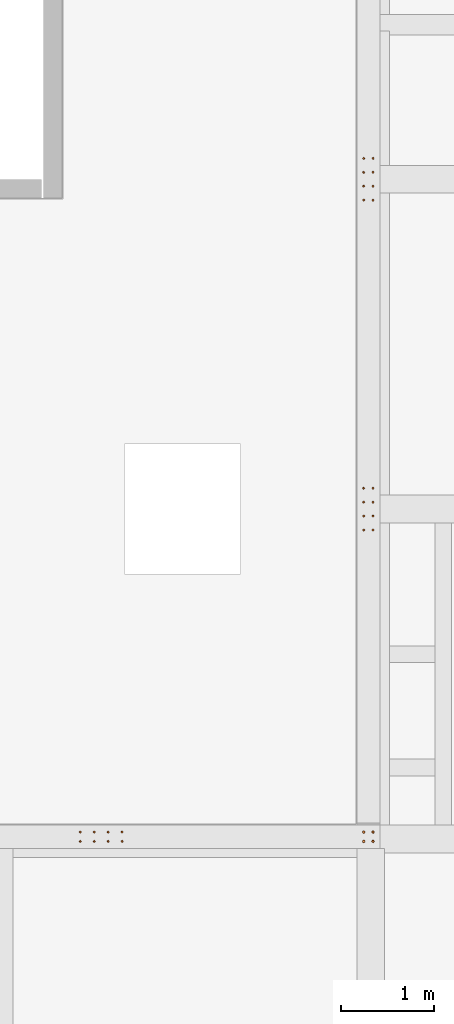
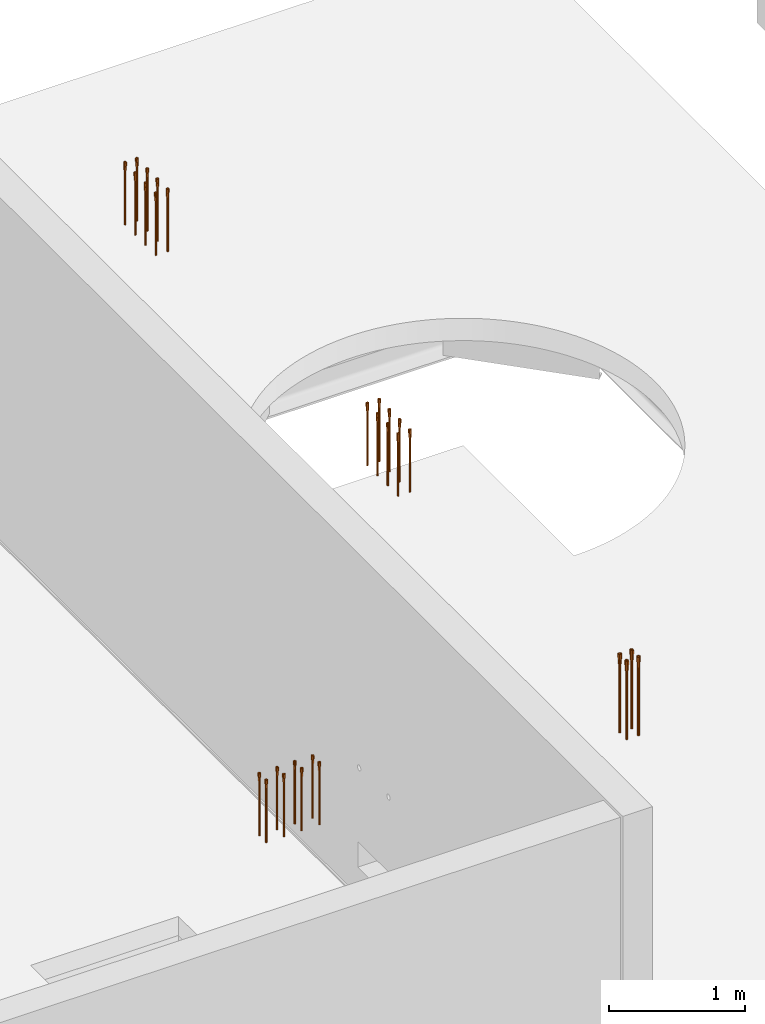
# One storey, part 14 of 16: 28 proxies.
"""IFC2X3 building model written with IfcOpenShell, lengths in millimetres."""

import ifcopenshell
import ifcopenshell.guid

model = None  # the IFC model being written
_history = None  # IfcOwnerHistory: only IFC2X3 demands one
_inside = {}  # id of a spatial element -> (the spatial element, [elements in it])
_under = {}  # id of a project, library or spatial element -> (it, [spatial elements below it])
_declared = {}  # id of a project -> (the project, [libraries it declares])
_typed = {}  # id of a type object -> (the type object, [elements of that type])
_made_of = {}  # id of a material, layer set ... -> (it, [elements and type objects made of it])


def new_model(schema):
    """Start an empty IFC model of exactly this schema.

    Asked for "IFC4X3", IfcOpenShell would pick the latest addendum, in which some entities
    have other attributes; the version numbers below select the first issue.
    IFC2X3 requires an IfcOwnerHistory on every rooted entity: one is made here for all.
    """
    global model, _history
    if schema == "IFC4X3":
        model = ifcopenshell.file(schema_version=(4, 3, 0, 0))
    else:
        model = ifcopenshell.file(schema=schema)
    _inside.clear()
    _under.clear()
    _declared.clear()
    _typed.clear()
    _made_of.clear()
    _history = None
    if model.schema == "IFC2X3":
        org = make("IfcOrganization", Name="unknown")
        user = make(
            "IfcPersonAndOrganization",
            ThePerson=make("IfcPerson", FamilyName="unknown"),
            TheOrganization=org,
        )
        app = make(
            "IfcApplication",
            ApplicationDeveloper=org,
            Version="unknown",
            ApplicationFullName="unknown",
            ApplicationIdentifier="unknown",
        )
        _history = make(
            "IfcOwnerHistory",
            OwningUser=user,
            OwningApplication=app,
            ChangeAction="ADDED",
            CreationDate=0,
        )
    return model


def make(cls, **values):
    """One entity of the class cls with the attributes given. An attribute that is None is left unset."""
    return model.create_entity(
        cls, **{name: value for name, value in values.items() if value is not None}
    )


def entity(cls, *values):
    """Any entity or typed value of the class cls, its attributes in the order of the schema. None: left unset."""
    e = model.create_entity(cls)
    for i, value in enumerate(values):
        if value is not None:
            e[i] = value
    return e


def rooted(cls, **values):
    """An entity with a GlobalId (a new one), such as an element, a storey or a relation."""
    return make(cls, GlobalId=ifcopenshell.guid.new(), OwnerHistory=_history, **values)


def si_unit(unit_type, name, prefix=None):
    """IfcSIUnit, for example si_unit("LENGTHUNIT", "METRE", prefix="MILLI")."""
    return make("IfcSIUnit", UnitType=unit_type, Prefix=prefix, Name=name)


def converted_unit(unit_type, name, factor, base, dimensions=None, offset=None):
    """IfcConversionBasedUnit, such as the inch: factor (a typed value) times the base unit."""
    return make(
        "IfcConversionBasedUnit"
        if offset is None
        else "IfcConversionBasedUnitWithOffset",
        ConversionOffset=offset,
        Dimensions=None
        if dimensions is None
        else entity("IfcDimensionalExponents", *dimensions),
        UnitType=unit_type,
        Name=name,
        ConversionFactor=make(
            "IfcMeasureWithUnit", ValueComponent=factor, UnitComponent=base
        ),
    )


def derived_unit(unit_type, elements):
    """IfcDerivedUnit: a product of units, each with its exponent."""
    return make(
        "IfcDerivedUnit",
        Elements=[
            make("IfcDerivedUnitElement", Unit=unit, Exponent=power)
            for unit, power in elements
        ],
        UnitType=unit_type,
    )


def assignment(units):
    """IfcUnitAssignment: the units of a project."""
    return None if units is None else make("IfcUnitAssignment", Units=units)


def point(xyz):
    """IfcCartesianPoint."""
    return None if xyz is None else make("IfcCartesianPoint", Coordinates=xyz)


def direction(xyz):
    """IfcDirection."""
    return None if xyz is None else make("IfcDirection", DirectionRatios=xyz)


def frame(location, z_axis=None, x_axis=None):
    """IfcAxis2Placement3D, a coordinate frame: its origin and axes. An axis left out is left unset."""
    return make(
        "IfcAxis2Placement3D",
        Location=point(location),
        Axis=direction(z_axis),
        RefDirection=direction(x_axis),
    )


def frame_2d(location, x_axis=None):
    """IfcAxis2Placement2D, a coordinate frame in the plane: its origin and x axis."""
    return make(
        "IfcAxis2Placement2D", Location=point(location), RefDirection=direction(x_axis)
    )


def origin():
    """The frame at (0, 0, 0) with its axes left unset."""
    return frame((0.0, 0.0, 0.0))


def place(relative_to, where):
    """IfcLocalPlacement: puts the frame where relative to a parent placement (None: the world)."""
    return make(
        "IfcLocalPlacement", PlacementRelTo=relative_to, RelativePlacement=where
    )


def context(
    kind, dimensions, precision=None, world=None, true_north=None, identifier=None
):
    """IfcGeometricRepresentationContext, for example the 3D "Model" context."""
    return make(
        "IfcGeometricRepresentationContext",
        ContextIdentifier=identifier,
        ContextType=kind,
        CoordinateSpaceDimension=dimensions,
        Precision=precision,
        WorldCoordinateSystem=world,
        TrueNorth=true_north,
    )


def subcontext(parent, identifier, kind, view, scale=None):
    """IfcGeometricRepresentationSubContext, for example "Body" below "Model"."""
    return make(
        "IfcGeometricRepresentationSubContext",
        ContextIdentifier=identifier,
        ContextType=kind,
        ParentContext=parent,
        TargetScale=scale,
        TargetView=view,
    )


def project(units=None, contexts=None):
    """IfcProject with its units and contexts."""
    return rooted(
        "IfcProject",
        Name="project",
        RepresentationContexts=contexts,
        UnitsInContext=assignment(units),
    )


def spatial(cls, under=None, at=None, **own):
    """A site, building, storey or space (cls), placed at a placement, below another one or the project."""
    s = rooted(cls, ObjectPlacement=at, **own)
    if under is not None:
        _under.setdefault(under.id(), (under, []))[1].append(s)
    return s


def profile(cls, at=None, kind="AREA", **sizes):
    """A parametric profile (cls). Its sizes go by their IFC names, for example OverallWidth=200.0."""
    return make(cls, ProfileType=kind, Position=at, **sizes)


def circle(**sizes):
    """IfcCircleProfileDef."""
    return profile("IfcCircleProfileDef", **sizes)


def extrude(swept, where, along, depth):
    """IfcExtrudedAreaSolid: the profile swept, set in the frame where, extruded along a direction by depth."""
    return make(
        "IfcExtrudedAreaSolid",
        SweptArea=swept,
        Position=where,
        ExtrudedDirection=direction(along),
        Depth=depth,
    )


def faces_of(points, faces, orient=None, outer=None):
    """IfcFace entities. A face is a list of loops; a loop is a list of indices into points, from 0.

    orient and outer hold one flag for each loop. By default every Orientation is true, the
    first loop of a face is its IfcFaceOuterBound and the others are IfcFaceBound.
    """
    made = []
    for i, loops in enumerate(faces):
        bounds = []
        for j, loop in enumerate(loops):
            is_outer = j == 0 if outer is None else outer[i][j]
            bounds.append(
                make(
                    "IfcFaceOuterBound" if is_outer else "IfcFaceBound",
                    Bound=make("IfcPolyLoop", Polygon=[points[k] for k in loop]),
                    Orientation=True if orient is None else orient[i][j],
                )
            )
        made.append(make("IfcFace", Bounds=bounds))
    return made


def faceted_brep(points, faces, orient=None, outer=None, voids=None):
    """IfcFacetedBrep: a solid bounded by flat faces; with voids (closed shells), ...WithVoids."""
    shared = [point(p) for p in points]
    hull = make("IfcClosedShell", CfsFaces=faces_of(shared, faces, orient, outer))
    if voids is None:
        return make("IfcFacetedBrep", Outer=hull)
    return make(
        "IfcFacetedBrepWithVoids",
        Outer=hull,
        Voids=[
            make(cls, CfsFaces=faces_of(shared, fs, o, b)) for cls, fs, o, b in voids
        ],
    )


def shape(context_of_items, identifier, shape_type, items):
    """IfcShapeRepresentation: the items that make up one representation, for example the "Body"."""
    return make(
        "IfcShapeRepresentation",
        ContextOfItems=context_of_items,
        RepresentationIdentifier=identifier,
        RepresentationType=shape_type,
        Items=items,
    )


def source(mapping_origin, context_of_items, identifier, shape_type, items):
    """IfcRepresentationMap: a shape defined once, which mapped items show again and again."""
    return make(
        "IfcRepresentationMap",
        MappingOrigin=mapping_origin,
        MappedRepresentation=shape(context_of_items, identifier, shape_type, items),
    )


def transform(
    local_origin,
    x_axis=None,
    y_axis=None,
    z_axis=None,
    scale=None,
    scale2=None,
    scale3=None,
    uniform=True,
):
    """IfcCartesianTransformationOperator3D, or its non-uniform kind. x_axis, y_axis, z_axis: its Axis1, 2, 3."""
    if uniform:
        return make(
            "IfcCartesianTransformationOperator3D",
            Axis1=direction(x_axis),
            Axis2=direction(y_axis),
            LocalOrigin=point(local_origin),
            Scale=scale,
            Axis3=direction(z_axis),
        )
    return make(
        "IfcCartesianTransformationOperator3DnonUniform",
        Axis1=direction(x_axis),
        Axis2=direction(y_axis),
        LocalOrigin=point(local_origin),
        Scale=scale,
        Axis3=direction(z_axis),
        Scale2=scale2,
        Scale3=scale3,
    )


def mapped(mapping_source, mapping_target):
    """IfcMappedItem: shows the shape of a source again, moved by a transform."""
    return make(
        "IfcMappedItem", MappingSource=mapping_source, MappingTarget=mapping_target
    )


def made_of(thing, what):
    """Note that an element or type object is made of a material, layer set ...; save() writes the relation."""
    if what is not None:
        _made_of.setdefault(what.id(), (what, []))[1].append(thing)
    return thing


def type_object(cls, material=None, **own):
    """A type object (cls), such as IfcWallType, which elements share."""
    return made_of(rooted(cls, **own), material)


def type_shapes(of_type, sources):
    """Give a type object the sources (RepresentationMaps) that its elements show as mapped items."""
    of_type.RepresentationMaps = sources


def element(
    cls,
    number,
    at=None,
    inside=None,
    cuts=None,
    type_object=None,
    material=None,
    context=None,
    identifier="Body",
    shape_type=None,
    held_by="IfcProductDefinitionShape",
    body=None,
    shapes=None,
    **own,
):
    """One element of the class cls, such as IfcWall. Its Tag is "e" and its number.

    at: its placement. inside: the storey or other place that contains it. cuts: it is an
    opening in that element (IfcRelVoidsElement). A single representation is given by context,
    identifier, shape_type and body (its items); several are given by shapes. held_by: the class
    of the entity that holds the representations. save() writes the other relations.
    """
    e = rooted(cls, Tag="e%d" % number, ObjectPlacement=at, **own)
    if body is not None:
        shapes = [shape(context, identifier, shape_type, body)]
    if shapes is not None:
        e.Representation = make(held_by, Representations=shapes)
    if inside is not None:
        _inside.setdefault(inside.id(), (inside, []))[1].append(e)
    if cuts is not None:
        rooted(
            "IfcRelVoidsElement", RelatingBuildingElement=cuts, RelatedOpeningElement=e
        )
    if type_object is not None:
        _typed.setdefault(type_object.id(), (type_object, []))[1].append(e)
    return made_of(e, material)


def aggregate(whole, parts):
    """IfcRelAggregates: a whole, such as a stair, and the parts it consists of."""
    return rooted("IfcRelAggregates", RelatingObject=whole, RelatedObjects=parts)


def save(model, path):
    """Write the relations noted so far, then the file.

    IfcRelAggregates (storeys below a building ...), IfcRelContainedInSpatialStructure (elements
    in a storey), IfcRelDefinesByType, IfcRelAssociatesMaterial and IfcRelDeclares: one each for
    every whole, place, type object, material and project.
    """
    for whole, parts in _under.values():
        aggregate(whole, parts)
    for where, things in _inside.values():
        rooted(
            "IfcRelContainedInSpatialStructure",
            RelatedElements=things,
            RelatingStructure=where,
        )
    for kind, things in _typed.values():
        rooted("IfcRelDefinesByType", RelatedObjects=things, RelatingType=kind)
    for what, things in _made_of.values():
        rooted("IfcRelAssociatesMaterial", RelatedObjects=things, RelatingMaterial=what)
    for by, libraries in _declared.values():
        rooted("IfcRelDeclares", RelatingContext=by, RelatedDefinitions=libraries)
    model.write(path)


model = new_model("IFC2X3")

# Units and contexts
model_context = context("Model", 3, precision=0.01, world=origin(), true_north=direction((6.12303176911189e-17, 1.0)))
body_context = subcontext(model_context, "Body", "Model", "MODEL_VIEW")
ifc_project = project(units=[si_unit("LENGTHUNIT", "METRE", prefix="MILLI"), si_unit("AREAUNIT", "SQUARE_METRE"), si_unit("VOLUMEUNIT", "CUBIC_METRE"), converted_unit("PLANEANGLEUNIT", "DEGREE", entity("IfcRatioMeasure", 0.0174532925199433), si_unit("PLANEANGLEUNIT", "RADIAN"), dimensions=[0, 0, 0, 0, 0, 0, 0]), si_unit("MASSUNIT", "GRAM", prefix="KILO"), derived_unit("MASSDENSITYUNIT", [(si_unit("MASSUNIT", "GRAM", prefix="KILO"), 1), (si_unit("LENGTHUNIT", "METRE"), -3)]), si_unit("TIMEUNIT", "SECOND"), si_unit("FREQUENCYUNIT", "HERTZ"), si_unit("THERMODYNAMICTEMPERATUREUNIT", "DEGREE_CELSIUS"), derived_unit("THERMALTRANSMITTANCEUNIT", [(si_unit("MASSUNIT", "GRAM", prefix="KILO"), 1), (si_unit("THERMODYNAMICTEMPERATUREUNIT", "KELVIN"), -1), (si_unit("TIMEUNIT", "SECOND"), -3)]), derived_unit("VOLUMETRICFLOWRATEUNIT", [(si_unit("LENGTHUNIT", "METRE"), 3), (si_unit("TIMEUNIT", "SECOND"), -1)]), si_unit("ELECTRICCURRENTUNIT", "AMPERE"), si_unit("ELECTRICVOLTAGEUNIT", "VOLT"), si_unit("POWERUNIT", "WATT"), si_unit("FORCEUNIT", "NEWTON", prefix="KILO"), si_unit("ILLUMINANCEUNIT", "LUX"), si_unit("LUMINOUSFLUXUNIT", "LUMEN"), si_unit("LUMINOUSINTENSITYUNIT", "CANDELA"), derived_unit("USERDEFINED", [(si_unit("MASSUNIT", "GRAM", prefix="KILO"), -1), (si_unit("LENGTHUNIT", "METRE"), -2), (si_unit("TIMEUNIT", "SECOND"), 3), (si_unit("LUMINOUSFLUXUNIT", "LUMEN"), 1)]), derived_unit("LINEARVELOCITYUNIT", [(si_unit("LENGTHUNIT", "METRE"), 1), (si_unit("TIMEUNIT", "SECOND"), -1)]), si_unit("PRESSUREUNIT", "PASCAL"), derived_unit("USERDEFINED", [(si_unit("LENGTHUNIT", "METRE"), -2), (si_unit("MASSUNIT", "GRAM", prefix="KILO"), 1), (si_unit("TIMEUNIT", "SECOND"), -2)])], contexts=[model_context])

# Site, building, storey
site_placement = place(None, origin())
site = spatial("IfcSite", under=ifc_project, at=site_placement, Name="Default", CompositionType="ELEMENT")
building_placement = place(site_placement, origin())
building = spatial("IfcBuilding", under=site, at=building_placement, Name="niet gebruiken", CompositionType="ELEMENT")
storey_placement = place(building_placement, frame((0.0, 0.0, 183150.0)))
storey = spatial("IfcBuildingStorey", under=building, at=storey_placement, Name="58 achtenvijftigste verdieping", CompositionType="ELEMENT", Elevation=183150.0)

# Proxies
building_element_proxy_type_1 = type_object("IfcBuildingElementProxyType", Name="Ø16/M20x560", PredefinedType="NOTDEFINED")
shared_shape_1 = source(origin(), body_context, "Body", "SolidModel", [
    extrude(circle(Radius=8.0, at=frame_2d((4.22994972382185e-15, -1.29243565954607e-14), x_axis=(1.0, 0.0))), frame((34.9769027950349, 0.0, -560.0)), (0.0, 0.0, 1.0), 489.0),
    extrude(circle(Radius=8.0, at=frame_2d((4.22994972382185e-15, -1.29243565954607e-14), x_axis=(1.0, 0.0))), frame((34.9769027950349, 0.0, -560.0)), (0.0, 0.0, 1.0), 489.0),
    faceted_brep([(30.380708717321, 11.0961940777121, 0.0), (32.6788057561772, 12.0480970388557, 0.0), (34.9769027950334, 13.0, 0.0), (34.9769027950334, 13.0, -33.0), (32.6788057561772, 12.0480970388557, -33.0), (30.380708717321, 11.0961940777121, -33.0), (28.0826116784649, 10.1442911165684, -33.0), (25.7845146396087, 9.1923881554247, -33.0), (25.7845146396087, 9.1923881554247, 0.0), (28.0826116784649, 10.1442911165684, 0.0), (47.0249998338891, 2.29809703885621, 0.0), (47.9769027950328, 0.0, 0.0), (47.9769027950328, 0.0, -33.0), (47.1698993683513, 1.94827861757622, -33.0), (46.0730968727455, 4.59619407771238, -33.0), (45.1211939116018, 6.89429111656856, -33.0), (44.1692909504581, 9.19238815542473, -33.0), (44.1692909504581, 9.19238815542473, 0.0), (45.1211939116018, 6.89429111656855, 0.0), (46.0730968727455, 4.59619407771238, 0.0), (23.5909096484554, 3.89655723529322, -33.0), (21.976902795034, 0.0, -33.0), (21.976902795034, 0.0, 0.0), (22.9288057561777, 2.29809703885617, 0.0), (23.8807087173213, 4.59619407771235, 0.0), (24.832611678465, 6.89429111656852, 0.0), (24.6877121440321, 6.54447269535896, -33.0), (39.5730968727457, 11.0961940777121, 0.0), (41.8711939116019, 10.1442911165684, 0.0), (41.8711939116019, 10.1442911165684, -33.0), (39.5730968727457, 11.0961940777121, -33.0), (37.2749998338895, 12.0480970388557, -33.0), (37.2749998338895, 12.0480970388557, 0.0), (46.3628959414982, -3.89655723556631, 0.0), (45.2660934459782, -6.54447269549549, 0.0), (44.1692909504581, -9.19238815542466, 0.0), (44.1692909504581, -9.19238815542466, -33.0), (45.1211939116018, -6.89429111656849, -33.0), (46.0730968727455, -4.59619407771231, -33.0), (47.0249998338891, -2.29809703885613, -33.0), (30.3807087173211, -11.0961940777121, 0.0), (28.0826116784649, -10.1442911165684, 0.0), (25.7845146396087, -9.19238815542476, 0.0), (25.7845146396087, -9.19238815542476, -33.0), (28.0826116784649, -10.1442911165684, -33.0), (30.3807087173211, -11.0961940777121, -33.0), (32.6788057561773, -12.0480970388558, -33.0), (34.9769027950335, -13.0, -33.0), (34.9769027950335, -13.0, 0.0), (32.6788057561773, -12.0480970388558, 0.0), (37.2749998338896, -12.0480970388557, -33.0), (39.5730968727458, -11.096194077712, -33.0), (41.871193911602, -10.1442911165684, -33.0), (41.871193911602, -10.1442911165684, 0.0), (39.5730968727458, -11.096194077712, 0.0), (37.2749998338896, -12.0480970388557, 0.0), (24.832611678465, -6.89429111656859, 0.0), (23.8807087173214, -4.59619407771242, 0.0), (22.9288057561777, -2.29809703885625, 0.0), (22.7839062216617, -1.94827861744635, -33.0), (23.8807087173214, -4.59619407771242, -33.0), (24.832611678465, -6.89429111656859, -33.0), (24.476902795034, 0.0, -38.0), (29.7269027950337, 9.09326673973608, -38.0), (40.2269027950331, 9.0932667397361, -38.0), (45.4769027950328, 0.0, -38.0), (40.2269027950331, -9.09326673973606, -38.0), (29.7269027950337, -9.09326673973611, -38.0), (29.7269027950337, 9.09326673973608, -71.0), (24.476902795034, 0.0, -71.0), (40.2269027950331, 9.0932667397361, -71.0), (45.4769027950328, 0.0, -71.0), (40.2269027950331, -9.09326673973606, -71.0), (29.7269027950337, -9.09326673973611, -71.0), (34.9769027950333, 0.0, -71.0), (34.9769027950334, 0.0, -33.0), (45.4769027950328, 0.0, -33.0), (40.2269027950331, 9.0932667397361, -33.0), (29.7269027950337, 9.09326673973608, -33.0), (24.476902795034, 0.0, -33.0), (40.2269027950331, -9.09326673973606, -33.0), (29.7269027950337, -9.09326673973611, -33.0), (29.7269027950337, 9.09326673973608, 0.0), (24.476902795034, 0.0, 0.0), (40.2269027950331, 9.0932667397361, 0.0), (45.4769027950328, 0.0, 0.0), (40.2269027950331, -9.09326673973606, 0.0), (29.7269027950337, -9.09326673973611, 0.0)], [[[0, 1, 2, 3, 4, 5, 6, 7, 8, 9]], [[10, 11, 12, 13, 14, 15, 16, 17, 18, 19]], [[20, 21, 22, 23, 24, 25, 8, 7, 26]], [[27, 28, 17, 16, 29, 30, 31, 3, 2, 32]], [[33, 34, 35, 36, 37, 38, 39, 12, 11]], [[40, 41, 42, 43, 44, 45, 46, 47, 48, 49]], [[48, 47, 50, 51, 52, 36, 35, 53, 54, 55]], [[43, 42, 56, 57, 58, 22, 21, 59, 60, 61]], [[62, 21, 20, 26, 7]], [[63, 62, 7]], [[63, 7, 6, 5, 4, 3]], [[64, 3, 31, 30, 29, 16]], [[16, 65, 64]], [[65, 16, 15, 14, 13, 12]], [[3, 64, 63]], [[65, 12, 39, 38, 37, 36]], [[66, 65, 36]], [[66, 36, 52, 51, 50, 47]], [[67, 47, 46, 45, 44, 43]], [[43, 62, 67]], [[62, 43, 61, 60, 59, 21]], [[47, 67, 66]], [[62, 63, 68, 69]], [[63, 64, 70, 68]], [[64, 65, 71, 70]], [[65, 66, 72, 71]], [[66, 67, 73, 72]], [[67, 62, 69, 73]], [[70, 71, 74]], [[74, 68, 70]], [[71, 72, 74]], [[73, 74, 72]], [[74, 73, 69]], [[74, 69, 68]], [[75, 76, 77]], [[77, 78, 75]], [[78, 79, 75]], [[75, 80, 76]], [[79, 81, 75]], [[80, 75, 81]], [[78, 82, 83, 79]], [[78, 77, 84, 82]], [[76, 85, 84, 77]], [[80, 86, 85, 76]], [[80, 81, 87, 86]], [[79, 83, 87, 81]], [[85, 11, 10]], [[85, 10, 19]], [[85, 19, 18]], [[85, 18, 17]], [[85, 17, 84]], [[85, 33, 11]], [[85, 34, 33]], [[85, 35, 34]], [[85, 86, 35]], [[86, 53, 35]], [[86, 54, 53]], [[86, 55, 54]], [[86, 48, 55]], [[48, 86, 87]], [[87, 49, 48]], [[87, 40, 49]], [[87, 41, 40]], [[87, 42, 41]], [[87, 83, 42]], [[83, 56, 42]], [[83, 57, 56]], [[83, 58, 57]], [[83, 22, 58]], [[83, 23, 22]], [[83, 24, 23]], [[83, 25, 24]], [[83, 8, 25]], [[83, 82, 8]], [[82, 84, 2]], [[82, 2, 1]], [[82, 1, 0]], [[82, 0, 9]], [[82, 9, 8]], [[84, 17, 28]], [[84, 28, 27]], [[84, 27, 32]], [[84, 32, 2]]]),
])
type_shapes(building_element_proxy_type_1, [shared_shape_1])
for number, where in (
    (1, (144640.023097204, 10475.0, 4420.0)),
    (2, (144790.023097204, 10475.0, 4420.0)),
    (3, (144640.023097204, 10375.0, 4420.0)),
    (4, (144790.023097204, 10375.0, 4420.0)),
):
    element("IfcBuildingElementProxy", number, at=place(storey_placement, frame(where)), inside=storey, type_object=building_element_proxy_type_1, Name="GM_Stekanker_DEMU_4010 GV:Ø16/M20x560", ObjectType="Ø16/M20x560", context=body_context, shape_type="MappedRepresentation", body=[
        mapped(shared_shape_1, transform((0.0, 0.0, 0.0), scale=1.0)),
    ])
for number, where, z_axis, x_axis in (
    (5, (147575.0, 17390.0230972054, 4420.0), (0.0, 0.0, 1.0), (0.0, 1.0, 0.0)),
    (6, (147575.0, 17540.0230972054, 4420.0), (0.0, 0.0, 1.0), (0.0, 1.0, 0.0)),
    (7, (147675.0, 17390.0230972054, 4420.0), (0.0, 0.0, 1.0), (0.0, 1.0, 0.0)),
    (8, (147675.0, 17540.0230972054, 4420.0), (0.0, 0.0, 1.0), (0.0, 1.0, 0.0)),
    (9, (147575.0, 13840.0230972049, 4420.0), (0.0, 0.0, 1.0), (0.0, 1.0, 0.0)),
    (10, (147575.0, 13990.0230972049, 4420.0), (0.0, 0.0, 1.0), (0.0, 1.0, 0.0)),
    (11, (147675.0, 13840.0230972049, 4420.0), (0.0, 0.0, 1.0), (0.0, 1.0, 0.0)),
    (12, (147675.0, 13990.0230972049, 4420.0), (0.0, 0.0, 1.0), (0.0, 1.0, 0.0)),
):
    element("IfcBuildingElementProxy", number, at=place(storey_placement, frame(where, z_axis=z_axis, x_axis=x_axis)), inside=storey, type_object=building_element_proxy_type_1, Name="GM_Stekanker_DEMU_4010 GV:Ø16/M20x560", ObjectType="Ø16/M20x560", context=body_context, shape_type="MappedRepresentation", body=[
        mapped(shared_shape_1, transform((0.0, 0.0, 0.0), scale=1.0)),
    ])
for number, where in (
    (13, (144940.023097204, 10475.0, 4420.0)),
    (14, (144940.023097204, 10375.0, 4420.0)),
    (15, (144490.023097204, 10475.0, 4420.0)),
    (16, (144490.023097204, 10375.0, 4420.0)),
):
    element("IfcBuildingElementProxy", number, at=place(storey_placement, frame(where)), inside=storey, type_object=building_element_proxy_type_1, Name="GM_Stekanker_DEMU_4010 GV:Ø16/M20x560", ObjectType="Ø16/M20x560", context=body_context, shape_type="MappedRepresentation", body=[
        mapped(shared_shape_1, transform((0.0, 0.0, 0.0), scale=1.0)),
    ])
for number, where, z_axis, x_axis in (
    (17, (147575.0, 17690.0230972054, 4420.0), (0.0, 0.0, 1.0), (0.0, 1.0, 0.0)),
    (18, (147675.0, 17690.0230972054, 4420.0), (0.0, 0.0, 1.0), (0.0, 1.0, 0.0)),
    (19, (147575.0, 17240.0230972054, 4420.0), (0.0, 0.0, 1.0), (0.0, 1.0, 0.0)),
    (20, (147675.0, 17240.0230972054, 4420.0), (0.0, 0.0, 1.0), (0.0, 1.0, 0.0)),
    (21, (147575.0, 14140.0230972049, 4420.0), (0.0, 0.0, 1.0), (0.0, 1.0, 0.0)),
    (22, (147675.0, 14140.0230972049, 4420.0), (0.0, 0.0, 1.0), (0.0, 1.0, 0.0)),
    (23, (147575.0, 13690.0230972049, 4420.0), (0.0, 0.0, 1.0), (0.0, 1.0, 0.0)),
    (24, (147675.0, 13690.0230972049, 4420.0), (0.0, 0.0, 1.0), (0.0, 1.0, 0.0)),
):
    element("IfcBuildingElementProxy", number, at=place(storey_placement, frame(where, z_axis=z_axis, x_axis=x_axis)), inside=storey, type_object=building_element_proxy_type_1, Name="GM_Stekanker_DEMU_4010 GV:Ø16/M20x560", ObjectType="Ø16/M20x560", context=body_context, shape_type="MappedRepresentation", body=[
        mapped(shared_shape_1, transform((0.0, 0.0, 0.0), scale=1.0)),
    ])
building_element_proxy_type_2 = type_object("IfcBuildingElementProxyType", Name="Ø20/M24x705", PredefinedType="NOTDEFINED")
shared_shape_2 = source(origin(), body_context, "Body", "SolidModel", [
    extrude(circle(Radius=10.0, at=frame_2d((0.0, -1.61554457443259e-14), x_axis=(1.0, 0.0))), frame((34.9769027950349, 0.0, -705.0)), (0.0, 0.0, 1.0), 615.0),
    extrude(circle(Radius=10.0, at=frame_2d((0.0, -1.61554457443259e-14), x_axis=(1.0, 0.0))), frame((34.9769027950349, 0.0, -705.0)), (0.0, 0.0, 1.0), 615.0),
    faceted_brep([(29.3200485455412, 13.6568542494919, 0.0), (32.1484756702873, 14.8284271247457, 0.0), (34.9769027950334, 16.0, 0.0), (34.9769027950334, 16.0, -38.0), (32.1484756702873, 14.8284271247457, -38.0), (29.3200485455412, 13.6568542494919, -38.0), (26.4916214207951, 12.4852813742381, -38.0), (23.663194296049, 11.3137084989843, -38.0), (23.663194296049, 11.3137084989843, 0.0), (26.4916214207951, 12.4852813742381, 0.0), (49.805329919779, 2.82842712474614, 0.0), (50.9769027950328, 0.0, 0.0), (50.9769027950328, 0.0, -38.0), (50.0199937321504, 2.31018283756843, -38.0), (49.7680552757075, 2.91841607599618, -38.0), (48.6337570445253, 5.65685424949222, -38.0), (48.5592077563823, 5.83683215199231, -38.0), (47.4621841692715, 8.48528137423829, -38.0), (46.2906112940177, 11.3137084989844, -38.0), (46.2906112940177, 11.3137084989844, 0.0), (47.4621841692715, 8.48528137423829, 0.0), (48.6337570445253, 5.65685424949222, 0.0), (21.3200485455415, 5.65685424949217, 0.0), (22.4916214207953, 8.48528137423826, 0.0), (22.4916214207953, 8.48528137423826, -38.0), (22.2769576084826, 7.96703708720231, -38.0), (21.3200485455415, 5.65685424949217, -38.0), (20.8907209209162, 4.62036567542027, -38.0), (20.1484756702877, 2.82842712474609, -38.0), (18.976902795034, 0.0, -38.0), (18.976902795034, 0.0, 0.0), (20.1484756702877, 2.82842712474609, 0.0), (40.6337570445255, 13.6568542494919, 0.0), (43.4621841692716, 12.4852813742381, 0.0), (43.4621841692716, 12.4852813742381, -38.0), (40.6337570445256, 13.6568542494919, -38.0), (37.8053299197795, 14.8284271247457, -38.0), (37.8053299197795, 14.8284271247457, 0.0), (49.063084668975, -4.62036567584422, 0.0), (47.6768479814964, -7.96703708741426, 0.0), (46.2906112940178, -11.3137084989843, 0.0), (46.2906112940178, -11.3137084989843, -38.0), (47.4621841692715, -8.48528137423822, -38.0), (48.6337570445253, -5.65685424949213, -38.0), (49.8053299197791, -2.82842712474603, -38.0), (29.3200485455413, -13.6568542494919, 0.0), (26.4916214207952, -12.4852813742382, 0.0), (23.6631942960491, -11.3137084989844, 0.0), (23.6631942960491, -11.3137084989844, -38.0), (26.4916214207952, -12.4852813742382, -38.0), (29.3200485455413, -13.6568542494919, -38.0), (32.1484756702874, -14.8284271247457, -38.0), (34.9769027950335, -16.0, -38.0), (34.9769027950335, -16.0, 0.0), (32.1484756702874, -14.8284271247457, 0.0), (37.8053299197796, -14.8284271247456, -38.0), (40.6337570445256, -13.6568542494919, -38.0), (43.4621841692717, -12.4852813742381, -38.0), (43.4621841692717, -12.4852813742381, 0.0), (40.6337570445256, -13.6568542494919, 0.0), (37.8053299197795, -14.8284271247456, 0.0), (22.4916214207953, -8.48528137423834, 0.0), (21.3200485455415, -5.65685424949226, 0.0), (20.1484756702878, -2.82842712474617, 0.0), (19.9338118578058, -2.31018283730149, -38.0), (20.1857498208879, -2.91841488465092, -38.0), (21.3200485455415, -5.65685424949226, -38.0), (22.4916214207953, -8.48528137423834, -38.0), (25.7845146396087, 9.19238815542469, -52.0), (24.8628969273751, 6.96740617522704, -52.0), (23.9412792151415, 4.7424241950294, -52.0), (22.9590910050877, 2.3712120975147, -52.0), (21.976902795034, 0.0, -52.0), (44.1692909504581, 9.19238815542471, -52.0), (47.9769027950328, 0.0, -52.0), (46.994714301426, 2.37121278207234, -52.0), (46.0730968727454, 4.59619407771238, -52.0), (45.1211939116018, 6.89429111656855, -52.0), (34.9769027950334, 13.0, -52.0), (32.6788057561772, 12.0480970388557, -52.0), (30.380708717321, 11.096194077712, -52.0), (28.0826116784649, 10.1442911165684, -52.0), (37.2749998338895, 12.0480970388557, -52.0), (41.8711939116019, 10.1442911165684, -52.0), (39.5730968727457, 11.0961940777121, -52.0), (44.1692909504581, -9.19238815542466, -52.0), (45.0909086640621, -6.96740617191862, -52.0), (45.3722781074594, -6.28812024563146, -52.0), (46.0125263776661, -4.74242418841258, -52.0), (46.5752652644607, -3.38385233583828, -52.0), (46.9947145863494, -2.37121209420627, -52.0), (28.0826116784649, -10.1442911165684, -52.0), (30.3807087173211, -11.0961940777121, -52.0), (32.6788057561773, -12.0480970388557, -52.0), (34.9769027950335, -13.0, -52.0), (25.7845146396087, -9.19238815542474, -52.0), (37.2749998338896, -12.0480970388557, -52.0), (39.5730968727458, -11.096194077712, -52.0), (41.871193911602, -10.1442911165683, -52.0), (22.9288057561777, -2.29809703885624, -52.0), (23.8807087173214, -4.59619407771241, -52.0), (24.8326116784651, -6.89429111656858, -52.0), (32.6788057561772, 12.0480970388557, -90.0), (30.380708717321, 11.096194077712, -90.0), (28.0826116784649, 10.1442911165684, -90.0), (25.7845146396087, 9.19238815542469, -90.0), (34.9769027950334, 13.0, -90.0), (47.9769027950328, 0.0, -90.0), (47.2760840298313, 1.691926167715, -90.0), (46.0730968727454, 4.59619407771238, -90.0), (45.1211939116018, 6.89429111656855, -90.0), (44.1692909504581, 9.19238815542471, -90.0), (23.3785403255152, 3.38385233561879, -90.0), (21.976902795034, 0.0, -90.0), (24.5815274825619, 6.28812024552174, -90.0), (41.8711939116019, 10.1442911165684, -90.0), (39.5730968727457, 11.0961940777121, -90.0), (37.2749998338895, 12.0480970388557, -90.0), (46.0730968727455, -4.5961940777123, -90.0), (47.0249998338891, -2.29809703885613, -90.0), (44.1692909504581, -9.19238815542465, -90.0), (45.1211939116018, -6.89429111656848, -90.0), (25.7845146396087, -9.19238815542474, -90.0), (28.0826116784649, -10.1442911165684, -90.0), (30.3807087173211, -11.0961940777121, -90.0), (32.6788057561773, -12.0480970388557, -90.0), (34.9769027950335, -13.0, -90.0), (37.2749998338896, -12.0480970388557, -90.0), (39.5730968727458, -11.096194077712, -90.0), (41.871193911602, -10.1442911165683, -90.0), (22.6777215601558, -1.6919261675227, -90.0), (23.8807087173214, -4.59619407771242, -90.0), (24.8326116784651, -6.89429111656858, -90.0), (34.9769027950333, 0.0, -90.0), (34.9769027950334, 0.0, -38.0), (47.9769027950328, 0.0, -38.0), (47.2760840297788, 1.69192616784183, -38.0), (46.0730968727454, 4.59619407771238, -38.0), (45.1211939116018, 6.89429111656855, -38.0), (44.1692909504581, 9.19238815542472, -38.0), (41.8711939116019, 10.1442911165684, -38.0), (39.5730968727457, 11.0961940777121, -38.0), (37.2749998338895, 12.0480970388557, -38.0), (34.9769027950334, 13.0, -38.0), (32.6788057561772, 12.0480970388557, -38.0), (30.380708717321, 11.096194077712, -38.0), (28.0826116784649, 10.1442911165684, -38.0), (25.7845146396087, 9.19238815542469, -38.0), (24.5815274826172, 6.28812024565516, -38.0), (23.3785403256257, 3.38385233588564, -38.0), (21.976902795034, 0.0, -38.0), (22.6777215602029, -1.69192616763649, -38.0), (47.0249998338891, -2.29809703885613, -38.0), (46.0730968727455, -4.59619407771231, -38.0), (45.1211939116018, -6.89429111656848, -38.0), (44.1692909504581, -9.19238815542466, -38.0), (41.871193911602, -10.1442911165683, -38.0), (39.5730968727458, -11.096194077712, -38.0), (37.2749998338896, -12.0480970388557, -38.0), (34.9769027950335, -13.0, -38.0), (23.8807087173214, -4.59619407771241, -38.0), (24.8326116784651, -6.89429111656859, -38.0), (25.7845146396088, -9.19238815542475, -38.0), (28.0826116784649, -10.1442911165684, -38.0), (30.3807087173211, -11.0961940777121, -38.0), (32.6788057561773, -12.0480970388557, -38.0), (32.6788057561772, 12.0480970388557, 0.0), (30.380708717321, 11.096194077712, 0.0), (28.0826116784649, 10.1442911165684, 0.0), (25.7845146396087, 9.19238815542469, 0.0), (34.9769027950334, 13.0, 0.0), (47.9769027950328, 0.0, 0.0), (47.0249998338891, 2.29809703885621, 0.0), (46.0730968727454, 4.59619407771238, 0.0), (45.1211939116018, 6.89429111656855, 0.0), (44.1692909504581, 9.19238815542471, 0.0), (24.832611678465, 6.89429111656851, 0.0), (23.8807087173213, 4.59619407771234, 0.0), (22.9288057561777, 2.29809703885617, 0.0), (21.976902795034, 0.0, 0.0), (37.2749998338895, 12.0480970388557, 0.0), (41.8711939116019, 10.1442911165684, 0.0), (39.5730968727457, 11.0961940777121, 0.0), (44.1692909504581, -9.19238815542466, 0.0), (45.3722781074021, -6.28812024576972, 0.0), (46.5752652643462, -3.38385233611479, 0.0), (32.6788057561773, -12.0480970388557, 0.0), (34.9769027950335, -13.0, 0.0), (25.7845146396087, -9.19238815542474, 0.0), (28.0826116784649, -10.1442911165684, 0.0), (30.3807087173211, -11.0961940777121, 0.0), (37.2749998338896, -12.0480970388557, 0.0), (39.5730968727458, -11.096194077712, 0.0), (41.871193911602, -10.1442911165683, 0.0), (22.9288057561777, -2.29809703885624, 0.0), (23.8807087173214, -4.59619407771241, 0.0), (24.8326116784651, -6.89429111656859, 0.0)], [[[0, 1, 2, 3, 4, 5, 6, 7, 8, 9]], [[10, 11, 12, 13, 14, 15, 16, 17, 18, 19, 20, 21]], [[22, 23, 8, 7, 24, 25, 26, 27, 28, 29, 30, 31]], [[32, 33, 19, 18, 34, 35, 36, 3, 2, 37]], [[38, 39, 40, 41, 42, 43, 44, 12, 11]], [[45, 46, 47, 48, 49, 50, 51, 52, 53, 54]], [[53, 52, 55, 56, 57, 41, 40, 58, 59, 60]], [[48, 47, 61, 62, 63, 30, 29, 64, 65, 66, 67]], [[7, 68, 69, 70, 71, 72, 29, 28, 27, 26, 25, 24]], [[73, 18, 17, 16, 15, 14, 13, 12, 74, 75, 76, 77]], [[4, 3, 78, 79, 80, 81, 68, 7, 6, 5]], [[82, 78, 3, 36, 35, 34, 18, 73, 83, 84]], [[41, 85, 86, 87, 88, 89, 90, 74, 12, 44, 43, 42]], [[91, 92, 93, 94, 52, 51, 50, 49, 48, 95]], [[55, 52, 94, 96, 97, 98, 85, 41, 57, 56]], [[99, 100, 101, 95, 48, 67, 66, 65, 64, 29, 72]], [[102, 103, 104, 105, 68, 81, 80, 79, 78, 106]], [[75, 74, 107, 108, 109, 110, 111, 73, 77, 76]], [[112, 113, 72, 71, 70, 69, 68, 105, 114]], [[84, 83, 73, 111, 115, 116, 117, 106, 78, 82]], [[118, 119, 107, 74, 90, 89, 88, 87, 86, 85, 120, 121]], [[92, 91, 95, 122, 123, 124, 125, 126, 94, 93]], [[94, 126, 127, 128, 129, 120, 85, 98, 97, 96]], [[122, 95, 101, 100, 99, 72, 113, 130, 131, 132]], [[133, 111, 110]], [[133, 110, 109]], [[133, 109, 108]], [[133, 108, 107]], [[133, 107, 119]], [[133, 115, 111]], [[133, 116, 115]], [[133, 117, 116]], [[133, 106, 117]], [[133, 102, 106]], [[133, 103, 102]], [[133, 104, 103]], [[133, 105, 104]], [[133, 114, 105]], [[133, 112, 114]], [[133, 113, 112]], [[133, 119, 118]], [[133, 118, 121]], [[133, 121, 120]], [[133, 120, 129]], [[133, 129, 128]], [[133, 128, 127]], [[133, 127, 126]], [[133, 126, 125]], [[133, 130, 113]], [[133, 131, 130]], [[133, 132, 131]], [[133, 122, 132]], [[133, 125, 124]], [[133, 124, 123]], [[133, 123, 122]], [[134, 135, 136]], [[134, 136, 137]], [[134, 137, 138]], [[134, 138, 139]], [[134, 139, 140]], [[134, 140, 141]], [[134, 141, 142]], [[134, 142, 143]], [[134, 143, 144]], [[134, 144, 145]], [[134, 145, 146]], [[134, 146, 147]], [[134, 147, 148]], [[134, 148, 149]], [[134, 149, 150]], [[134, 150, 151]], [[134, 152, 135]], [[134, 153, 152]], [[134, 154, 153]], [[134, 155, 154]], [[134, 156, 155]], [[134, 157, 156]], [[134, 158, 157]], [[134, 159, 158]], [[134, 151, 160]], [[134, 160, 161]], [[134, 161, 162]], [[134, 162, 163]], [[134, 163, 164]], [[134, 164, 165]], [[134, 165, 159]], [[166, 167, 168, 169, 147, 146, 145, 144, 143, 170]], [[136, 135, 171, 172, 173, 174, 175, 139, 138, 137]], [[148, 147, 169, 176, 177, 178, 179, 150, 149]], [[180, 170, 143, 142, 141, 140, 139, 175, 181, 182]], [[153, 154, 155, 183, 184, 185, 171, 135, 152]], [[186, 187, 159, 165, 164, 163, 162, 188, 189, 190]], [[158, 159, 187, 191, 192, 193, 183, 155, 156, 157]], [[161, 160, 151, 150, 179, 194, 195, 196, 188, 162]], [[171, 11, 10]], [[171, 10, 21]], [[171, 21, 20]], [[171, 20, 19]], [[19, 172, 171]], [[171, 38, 11]], [[171, 39, 38]], [[171, 40, 39]], [[40, 171, 185]], [[40, 185, 184]], [[40, 184, 183]], [[183, 58, 40]], [[183, 59, 58]], [[183, 60, 59]], [[183, 53, 60]], [[53, 183, 193]], [[53, 193, 192]], [[53, 192, 191]], [[53, 191, 187]], [[53, 187, 186]], [[53, 186, 190]], [[53, 190, 189]], [[53, 189, 188]], [[188, 54, 53]], [[188, 45, 54]], [[188, 46, 45]], [[188, 47, 46]], [[47, 188, 196]], [[47, 196, 195]], [[47, 195, 194]], [[47, 194, 179]], [[179, 61, 47]], [[179, 62, 61]], [[179, 63, 62]], [[179, 30, 63]], [[179, 31, 30]], [[179, 22, 31]], [[179, 23, 22]], [[179, 8, 23]], [[8, 179, 178]], [[8, 178, 177]], [[8, 177, 176]], [[8, 176, 169]], [[169, 9, 8]], [[169, 0, 9]], [[169, 1, 0]], [[169, 2, 1]], [[2, 169, 168]], [[2, 168, 167]], [[2, 167, 166]], [[2, 166, 170]], [[2, 170, 180]], [[2, 180, 182]], [[2, 182, 181]], [[2, 181, 175]], [[175, 19, 33]], [[19, 175, 174]], [[175, 33, 32]], [[175, 32, 37]], [[175, 37, 2]], [[19, 174, 173]], [[19, 173, 172]]]),
])
type_shapes(building_element_proxy_type_2, [shared_shape_2])
for number, where, z_axis, x_axis in (
    (25, (147709.976902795, 10375.0, 4420.0), (0.0, 0.0, 1.0), (-1.0, 0.0, 0.0)),
    (26, (147609.976902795, 10375.0, 4420.0), (0.0, 0.0, 1.0), (-1.0, 0.0, 0.0)),
    (27, (147709.976902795, 10475.0, 4420.0), (0.0, 0.0, 1.0), (-1.0, 0.0, 0.0)),
    (28, (147609.976902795, 10475.0, 4420.0), (0.0, 0.0, 1.0), (-1.0, 0.0, 0.0)),
):
    element("IfcBuildingElementProxy", number, at=place(storey_placement, frame(where, z_axis=z_axis, x_axis=x_axis)), inside=storey, type_object=building_element_proxy_type_2, Name="GM_Stekanker_DEMU_4010 GV:Ø20/M24x705", ObjectType="Ø20/M24x705", context=body_context, shape_type="MappedRepresentation", body=[
        mapped(shared_shape_2, transform((0.0, 0.0, 0.0), scale=1.0)),
    ])

save(model, "model.ifc")
